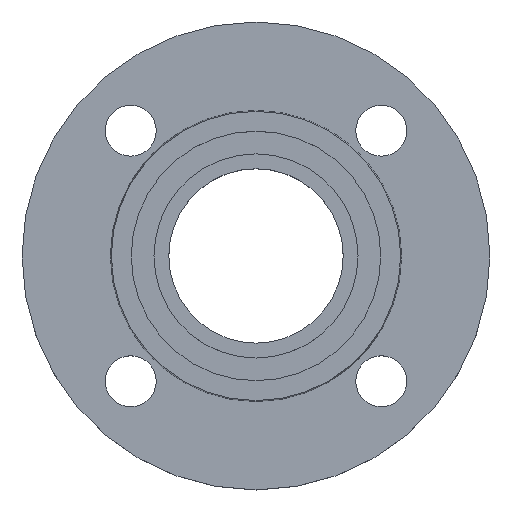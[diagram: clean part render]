
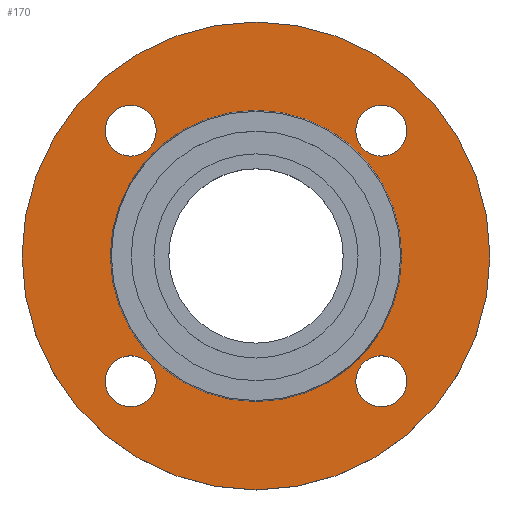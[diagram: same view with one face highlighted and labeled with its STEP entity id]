
A CAD part, top view. The second image highlights one B-rep face of the part: STEP entity #170.
In plain terms, the highlighted planar face has unit normal (0, 0, 1).
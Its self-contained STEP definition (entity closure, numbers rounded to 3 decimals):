
#4 = AXIS2_PLACEMENT_3D ( 'NONE', #206, #205, #203 ) ;
#8 = DIRECTION ( 'NONE',  ( -1., 0., 0. ) ) ;
#10 = EDGE_CURVE ( 'NONE', #620, #49, #573, .T. ) ;
#11 = DIRECTION ( 'NONE',  ( 0., 0., -1. ) ) ;
#12 = CARTESIAN_POINT ( 'NONE',  ( 0., 0., -2. ) ) ;
#25 = DIRECTION ( 'NONE',  ( 1., 0., 0. ) ) ;
#26 = DIRECTION ( 'NONE',  ( 0., 0., -1. ) ) ;
#27 = CARTESIAN_POINT ( 'NONE',  ( -44.194, -44.194, -2. ) ) ;
#49 = VERTEX_POINT ( 'NONE', #286 ) ;
#56 = EDGE_CURVE ( 'NONE', #49, #620, #449, .T. ) ;
#73 = DIRECTION ( 'NONE',  ( 1., 0., 0. ) ) ;
#75 = DIRECTION ( 'NONE',  ( 0., 0., -1. ) ) ;
#77 = CARTESIAN_POINT ( 'NONE',  ( -44.194, 44.194, -2. ) ) ;
#90 = CIRCLE ( 'NONE', #94, 82.5 ) ;
#94 = AXIS2_PLACEMENT_3D ( 'NONE', #148, #146, #144 ) ;
#98 = CARTESIAN_POINT ( 'NONE',  ( 82.5, 0., -2. ) ) ;
#112 = DIRECTION ( 'NONE',  ( 1., 0., 0. ) ) ;
#113 = CIRCLE ( 'NONE', #130, 51.353 ) ;
#114 = DIRECTION ( 'NONE',  ( 0., 0., -1. ) ) ;
#115 = CARTESIAN_POINT ( 'NONE',  ( 44.194, -44.194, -2. ) ) ;
#117 = DIRECTION ( 'NONE',  ( 1., 0., 0. ) ) ;
#118 = DIRECTION ( 'NONE',  ( 0., 0., -1. ) ) ;
#122 = CARTESIAN_POINT ( 'NONE',  ( -44.194, -44.194, -2. ) ) ;
#123 = DIRECTION ( 'NONE',  ( -1., 0., 0. ) ) ;
#124 = DIRECTION ( 'NONE',  ( 0., 0., -1. ) ) ;
#125 = CARTESIAN_POINT ( 'NONE',  ( 0., 0., -2. ) ) ;
#130 = AXIS2_PLACEMENT_3D ( 'NONE', #125, #124, #123 ) ;
#131 = CIRCLE ( 'NONE', #132, 9. ) ;
#132 = AXIS2_PLACEMENT_3D ( 'NONE', #122, #118, #117 ) ;
#140 = AXIS2_PLACEMENT_3D ( 'NONE', #115, #114, #112 ) ;
#144 = DIRECTION ( 'NONE',  ( -1., 0., 0. ) ) ;
#146 = DIRECTION ( 'NONE',  ( 0., 0., -1. ) ) ;
#148 = CARTESIAN_POINT ( 'NONE',  ( 0., 0., -2. ) ) ;
#169 = CIRCLE ( 'NONE', #174, 9. ) ;
#170 = ADVANCED_FACE ( 'NONE', ( #220, #218, #216, #215, #214, #213 ), #211, .T. ) ;
#174 = AXIS2_PLACEMENT_3D ( 'NONE', #77, #75, #73 ) ;
#203 = DIRECTION ( 'NONE',  ( 1., 0., 0. ) ) ;
#205 = DIRECTION ( 'NONE',  ( 0., 0., 1. ) ) ;
#206 = CARTESIAN_POINT ( 'NONE',  ( 51.353, 0., -2. ) ) ;
#211 = PLANE ( 'NONE',  #4 ) ;
#213 = FACE_OUTER_BOUND ( 'NONE', #483, .T. ) ;
#214 = FACE_BOUND ( 'NONE', #430, .T. ) ;
#215 = FACE_BOUND ( 'NONE', #429, .T. ) ;
#216 = FACE_BOUND ( 'NONE', #539, .T. ) ;
#218 = FACE_BOUND ( 'NONE', #436, .T. ) ;
#219 = CARTESIAN_POINT ( 'NONE',  ( -44.194, 44.194, -2. ) ) ;
#220 = FACE_BOUND ( 'NONE', #338, .T. ) ;
#222 = CIRCLE ( 'NONE', #224, 9. ) ;
#224 = AXIS2_PLACEMENT_3D ( 'NONE', #27, #26, #25 ) ;
#225 = CIRCLE ( 'NONE', #233, 51.353 ) ;
#227 = AXIS2_PLACEMENT_3D ( 'NONE', #441, #439, #437 ) ;
#229 = CIRCLE ( 'NONE', #227, 82.5 ) ;
#233 = AXIS2_PLACEMENT_3D ( 'NONE', #12, #11, #8 ) ;
#243 = CIRCLE ( 'NONE', #140, 9. ) ;
#271 = EDGE_CURVE ( 'NONE', #616, #356, #90, .T. ) ;
#274 = CIRCLE ( 'NONE', #431, 9. ) ;
#282 = DIRECTION ( 'NONE',  ( 1., 0., 0. ) ) ;
#283 = DIRECTION ( 'NONE',  ( 0., 0., -1. ) ) ;
#284 = CARTESIAN_POINT ( 'NONE',  ( 44.194, 44.194, -2. ) ) ;
#286 = CARTESIAN_POINT ( 'NONE',  ( 35.194, 44.194, -2. ) ) ;
#313 = EDGE_CURVE ( 'NONE', #567, #548, #113, .T. ) ;
#317 = DIRECTION ( 'NONE',  ( 1., 0., 0. ) ) ;
#320 = DIRECTION ( 'NONE',  ( 0., 0., -1. ) ) ;
#321 = CARTESIAN_POINT ( 'NONE',  ( 44.194, 44.194, -2. ) ) ;
#323 = EDGE_CURVE ( 'NONE', #661, #615, #131, .T. ) ;
#326 = EDGE_CURVE ( 'NONE', #659, #614, #243, .T. ) ;
#328 = AXIS2_PLACEMENT_3D ( 'NONE', #631, #642, #633 ) ;
#329 = CIRCLE ( 'NONE', #328, 9. ) ;
#336 = DIRECTION ( 'NONE',  ( 0., 0., -1. ) ) ;
#338 = EDGE_LOOP ( 'NONE', ( #725, #728 ) ) ;
#356 = VERTEX_POINT ( 'NONE', #98 ) ;
#369 = DIRECTION ( 'NONE',  ( 1., 0., 0. ) ) ;
#375 = EDGE_CURVE ( 'NONE', #476, #645, #169, .T. ) ;
#429 = EDGE_LOOP ( 'NONE', ( #738, #740 ) ) ;
#430 = EDGE_LOOP ( 'NONE', ( #741, #743 ) ) ;
#431 = AXIS2_PLACEMENT_3D ( 'NONE', #219, #336, #369 ) ;
#436 = EDGE_LOOP ( 'NONE', ( #730, #731 ) ) ;
#437 = DIRECTION ( 'NONE',  ( -1., 0., 0. ) ) ;
#439 = DIRECTION ( 'NONE',  ( 0., 0., -1. ) ) ;
#441 = CARTESIAN_POINT ( 'NONE',  ( 0., 0., -2. ) ) ;
#448 = AXIS2_PLACEMENT_3D ( 'NONE', #284, #283, #282 ) ;
#449 = CIRCLE ( 'NONE', #448, 9. ) ;
#450 = EDGE_CURVE ( 'NONE', #615, #661, #222, .T. ) ;
#463 = EDGE_CURVE ( 'NONE', #548, #567, #225, .T. ) ;
#476 = VERTEX_POINT ( 'NONE', #745 ) ;
#483 = EDGE_LOOP ( 'NONE', ( #613, #591 ) ) ;
#509 = EDGE_CURVE ( 'NONE', #645, #476, #274, .T. ) ;
#518 = AXIS2_PLACEMENT_3D ( 'NONE', #321, #320, #317 ) ;
#527 = CARTESIAN_POINT ( 'NONE',  ( -53.194, -44.194, -2. ) ) ;
#532 = CARTESIAN_POINT ( 'NONE',  ( 35.194, -44.194, -2. ) ) ;
#536 = EDGE_CURVE ( 'NONE', #614, #659, #329, .T. ) ;
#539 = EDGE_LOOP ( 'NONE', ( #733, #737 ) ) ;
#548 = VERTEX_POINT ( 'NONE', #632 ) ;
#565 = CARTESIAN_POINT ( 'NONE',  ( -35.194, 44.194, -2. ) ) ;
#567 = VERTEX_POINT ( 'NONE', #611 ) ;
#573 = CIRCLE ( 'NONE', #518, 9. ) ;
#590 = CARTESIAN_POINT ( 'NONE',  ( 53.194, 44.194, -2. ) ) ;
#591 = ORIENTED_EDGE ( 'NONE', *, *, #271, .F. ) ;
#592 = CARTESIAN_POINT ( 'NONE',  ( 53.194, -44.194, -2. ) ) ;
#593 = CARTESIAN_POINT ( 'NONE',  ( -35.194, -44.194, -2. ) ) ;
#594 = CARTESIAN_POINT ( 'NONE',  ( -82.5, 0., -2. ) ) ;
#611 = CARTESIAN_POINT ( 'NONE',  ( -51.353, 0., -2. ) ) ;
#613 = ORIENTED_EDGE ( 'NONE', *, *, #744, .F. ) ;
#614 = VERTEX_POINT ( 'NONE', #592 ) ;
#615 = VERTEX_POINT ( 'NONE', #593 ) ;
#616 = VERTEX_POINT ( 'NONE', #594 ) ;
#620 = VERTEX_POINT ( 'NONE', #590 ) ;
#631 = CARTESIAN_POINT ( 'NONE',  ( 44.194, -44.194, -2. ) ) ;
#632 = CARTESIAN_POINT ( 'NONE',  ( 51.353, 0., -2. ) ) ;
#633 = DIRECTION ( 'NONE',  ( 1., 0., 0. ) ) ;
#642 = DIRECTION ( 'NONE',  ( 0., 0., -1. ) ) ;
#645 = VERTEX_POINT ( 'NONE', #565 ) ;
#659 = VERTEX_POINT ( 'NONE', #532 ) ;
#661 = VERTEX_POINT ( 'NONE', #527 ) ;
#725 = ORIENTED_EDGE ( 'NONE', *, *, #536, .T. ) ;
#728 = ORIENTED_EDGE ( 'NONE', *, *, #326, .T. ) ;
#730 = ORIENTED_EDGE ( 'NONE', *, *, #450, .T. ) ;
#731 = ORIENTED_EDGE ( 'NONE', *, *, #323, .T. ) ;
#733 = ORIENTED_EDGE ( 'NONE', *, *, #509, .T. ) ;
#737 = ORIENTED_EDGE ( 'NONE', *, *, #375, .T. ) ;
#738 = ORIENTED_EDGE ( 'NONE', *, *, #10, .T. ) ;
#740 = ORIENTED_EDGE ( 'NONE', *, *, #56, .T. ) ;
#741 = ORIENTED_EDGE ( 'NONE', *, *, #313, .T. ) ;
#743 = ORIENTED_EDGE ( 'NONE', *, *, #463, .T. ) ;
#744 = EDGE_CURVE ( 'NONE', #356, #616, #229, .T. ) ;
#745 = CARTESIAN_POINT ( 'NONE',  ( -53.194, 44.194, -2. ) ) ;
